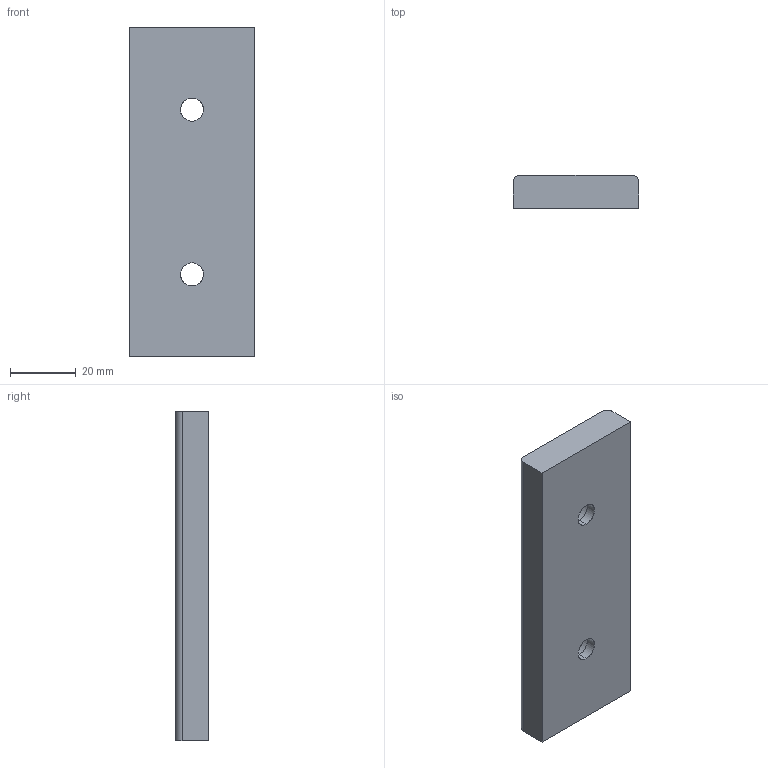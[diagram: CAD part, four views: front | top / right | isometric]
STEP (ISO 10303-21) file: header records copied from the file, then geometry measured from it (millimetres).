
FILE_DESCRIPTION(('CATIA V5 STEP Exchange'),'2;1');
FILE_NAME('C:\Users\Utente\Desktop\3D files A606\A606-038-100.stp','2020-04-13T18:06:43+00:00',('none'),('none'),'CATIA Version 5 Release 20 GA (IN-10)','CATIA V5 STEP AP203','none');
FILE_SCHEMA(('CONFIG_CONTROL_DESIGN'));
Length unit declared in the file: millimetre
Products named in the file (1): Noname
Bounding box: 38 x 10 x 100 mm (x, y, z)
Surface area: 10646.7 mm2 (no closed solid volume)
Topology: 0 solids, 14 shells, 18 faces, 76 edges, 68 vertices
Faces by surface type: cylinder 10, extrusion 8
Entity records: 1044 total; most frequent: CARTESIAN_POINT 415, DIRECTION 84, ORIENTED_EDGE 84, EDGE_CURVE 76, VERTEX_POINT 68, VECTOR 44, LINE 36, AXIS2_PLACEMENT_3D 31
